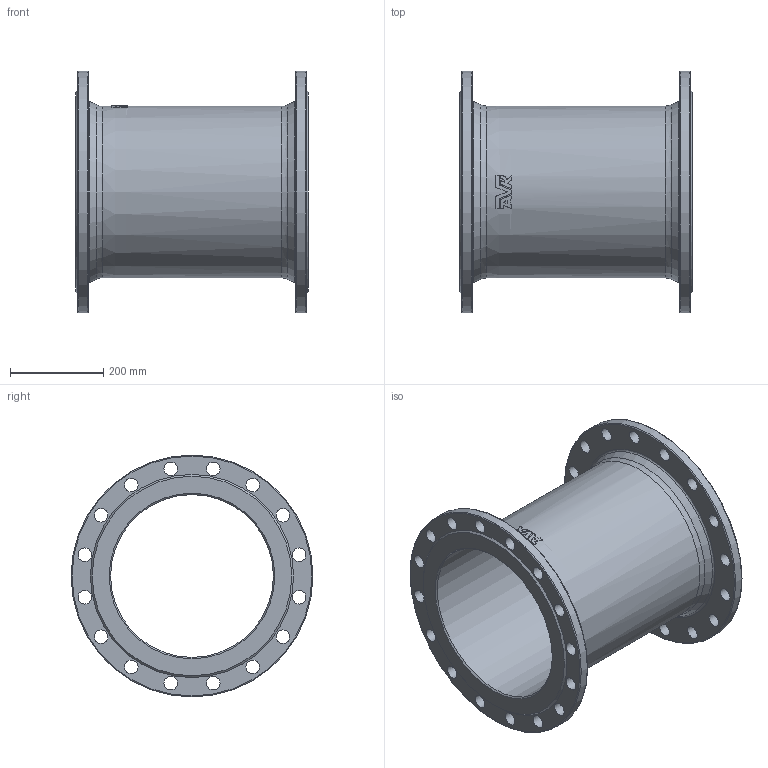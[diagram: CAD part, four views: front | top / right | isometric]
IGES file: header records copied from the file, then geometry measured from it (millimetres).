
Start section: SolidWorks IGES file using analytic representation for surfaces
Global section: file name: \\avksan2\techshare\PBM outline export from Enovia\O_712_4810_DN350_1X_REV01.igs; native system: SolidWorks 2019; preprocessor: SolidWorks 2019; author: pbm; date: 211201.115140; units: millimetre
Bounding box: 500 x 520 x 520 mm (x, y, z)
Surface area: 1582019.9 mm2 (no closed solid volume)
Topology: 0 solids, 0 shells, 97 faces, 486 edges, 435 vertices
Faces by surface type: revolution 54, bspline 43
